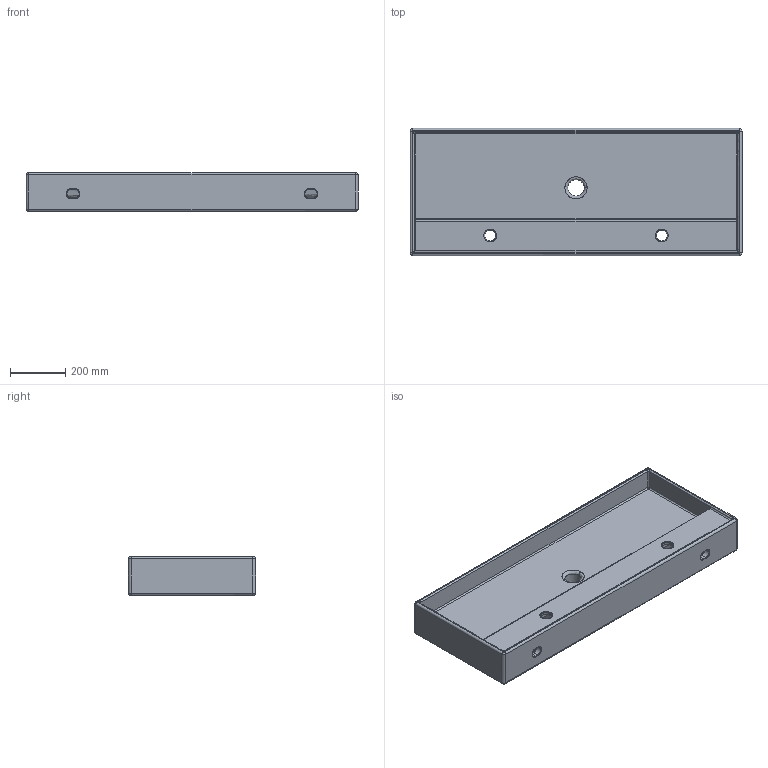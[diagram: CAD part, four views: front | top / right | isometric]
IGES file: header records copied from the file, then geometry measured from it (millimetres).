
Start section: C
Global section: file name: Teorema 120 R-B.igs; native system:  By UGS Corp.; preprocessor: XPlus GENERIC/IGES 3.0; author: Author; organization: Title; date: 20120705.150054; units: millimetre
Bounding box: 1200 x 460 x 140 mm (x, y, z)
Surface area: 2030353.1 mm2 (no closed solid volume)
Topology: 0 solids, 0 shells, 214 faces, 1012 edges, 1000 vertices
Faces by surface type: bspline 214
